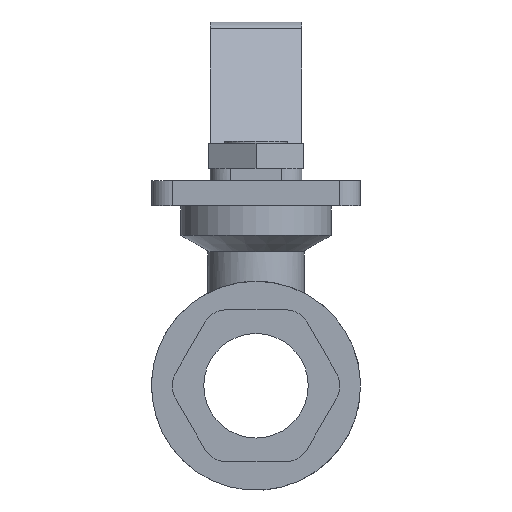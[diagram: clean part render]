
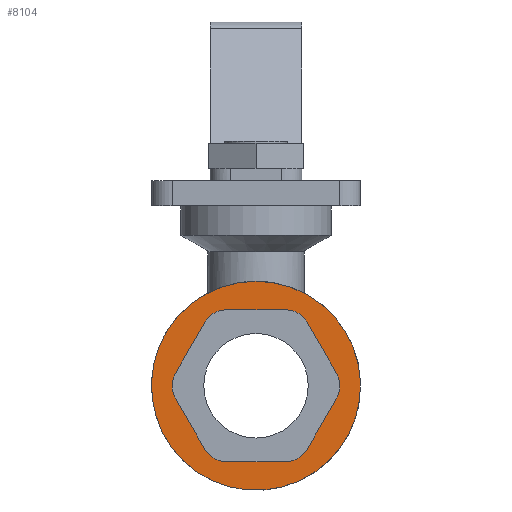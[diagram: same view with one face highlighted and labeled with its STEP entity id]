
A CAD part, front view. The second image highlights one B-rep face of the part: STEP entity #8104.
In plain terms, the highlighted planar face has unit normal (0, -1, 0).
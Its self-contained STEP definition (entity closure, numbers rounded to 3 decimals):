
#8104=ADVANCED_FACE('',(#14807,#14809),#14811,.T.);
#14807=FACE_BOUND('',#14808,.T.);
#14808=EDGE_LOOP('',(#20341,#20342));
#14809=FACE_BOUND('',#14810,.T.);
#14810=EDGE_LOOP('',(#20343,#20344,#20345,#20346,#20347,#20348,#20349,#20350,#20351,
#20352,#20353,#20354));
#14811=PLANE('',#14812);
#14812=AXIS2_PLACEMENT_3D('',#14813,#14814,#14815);
#14813=CARTESIAN_POINT('',(1521.074,2026.835,-6.002));
#14814=DIRECTION('',(0.,-1.,0.));
#14815=DIRECTION('',(1.,0.,0.));
#20341=ORIENTED_EDGE('',*,*,#23243,.F.);
#20342=ORIENTED_EDGE('',*,*,#23242,.F.);
#20343=ORIENTED_EDGE('',*,*,#23182,.T.);
#20344=ORIENTED_EDGE('',*,*,#23192,.T.);
#20345=ORIENTED_EDGE('',*,*,#23188,.T.);
#20346=ORIENTED_EDGE('',*,*,#23179,.T.);
#20347=ORIENTED_EDGE('',*,*,#23176,.T.);
#20348=ORIENTED_EDGE('',*,*,#23173,.T.);
#20349=ORIENTED_EDGE('',*,*,#23169,.T.);
#20350=ORIENTED_EDGE('',*,*,#23193,.T.);
#20351=ORIENTED_EDGE('',*,*,#23159,.T.);
#20352=ORIENTED_EDGE('',*,*,#23165,.T.);
#20353=ORIENTED_EDGE('',*,*,#23166,.T.);
#20354=ORIENTED_EDGE('',*,*,#23187,.T.);
#23159=EDGE_CURVE('',#27551,#27552,#27553,.T.);
#23165=EDGE_CURVE('',#27552,#27561,#27563,.T.);
#23166=EDGE_CURVE('',#27561,#27564,#27565,.T.);
#23169=EDGE_CURVE('',#27569,#27570,#27571,.T.);
#23173=EDGE_CURVE('',#27577,#27569,#27578,.T.);
#23176=EDGE_CURVE('',#27582,#27577,#27583,.T.);
#23179=EDGE_CURVE('',#27587,#27582,#27588,.T.);
#23182=EDGE_CURVE('',#27592,#27593,#27594,.T.);
#23187=EDGE_CURVE('',#27564,#27592,#27601,.T.);
#23188=EDGE_CURVE('',#27602,#27587,#27603,.T.);
#23192=EDGE_CURVE('',#27593,#27602,#27608,.T.);
#23193=EDGE_CURVE('',#27570,#27551,#27609,.T.);
#23242=EDGE_CURVE('',#27691,#27692,#27693,.T.);
#23243=EDGE_CURVE('',#27692,#27691,#27694,.T.);
#27551=VERTEX_POINT('',#37117);
#27552=VERTEX_POINT('',#37118);
#27553=CIRCLE('',#37119,6.);
#27561=VERTEX_POINT('',#37139);
#27563=LINE('',#37143,#37144);
#27564=VERTEX_POINT('',#37146);
#27565=CIRCLE('',#37147,6.);
#27569=VERTEX_POINT('',#37159);
#27570=VERTEX_POINT('',#37160);
#27571=CIRCLE('',#37161,6.);
#27577=VERTEX_POINT('',#37177);
#27578=LINE('',#37178,#37179);
#27582=VERTEX_POINT('',#37188);
#27583=CIRCLE('',#37189,6.);
#27587=VERTEX_POINT('',#37201);
#27588=LINE('',#37202,#37203);
#27592=VERTEX_POINT('',#37212);
#27593=VERTEX_POINT('',#37213);
#27594=CIRCLE('',#37214,6.);
#27601=LINE('',#37233,#37234);
#27602=VERTEX_POINT('',#37236);
#27603=CIRCLE('',#37237,6.);
#27608=LINE('',#37252,#37253);
#27609=LINE('',#37255,#37256);
#27691=VERTEX_POINT('',#37721);
#27692=VERTEX_POINT('',#37722);
#27693=CIRCLE('',#37723,25.);
#27694=CIRCLE('',#37727,25.);
#37117=CARTESIAN_POINT('',(1514.038,2026.835,-49.189));
#37118=CARTESIAN_POINT('',(1508.842,2026.835,-46.189));
#37119=AXIS2_PLACEMENT_3D('',#37120,#37121,#37122);
#37120=CARTESIAN_POINT('',(1514.038,2026.835,-43.189));
#37121=DIRECTION('',(0.,1.,0.));
#37122=DIRECTION('',(0.,0.,-1.));
#37139=CARTESIAN_POINT('',(1501.806,2026.835,-34.002));
#37143=CARTESIAN_POINT('',(1508.842,2026.835,-46.189));
#37144=VECTOR('',#37145,1.);
#37145=DIRECTION('',(-0.5,0.,0.866));
#37146=CARTESIAN_POINT('',(1501.806,2026.835,-28.002));
#37147=AXIS2_PLACEMENT_3D('',#37148,#37149,#37150);
#37148=CARTESIAN_POINT('',(1507.002,2026.835,-31.002));
#37149=DIRECTION('',(0.,1.,0.));
#37150=DIRECTION('',(-0.866,0.,-0.5));
#37159=CARTESIAN_POINT('',(1533.306,2026.835,-46.189));
#37160=CARTESIAN_POINT('',(1528.11,2026.835,-49.189));
#37161=AXIS2_PLACEMENT_3D('',#37162,#37163,#37164);
#37162=CARTESIAN_POINT('',(1528.11,2026.835,-43.189));
#37163=DIRECTION('',(0.,1.,0.));
#37164=DIRECTION('',(0.866,0.,-0.5));
#37177=CARTESIAN_POINT('',(1540.342,2026.835,-34.002));
#37178=CARTESIAN_POINT('',(1540.342,2026.835,-34.002));
#37179=VECTOR('',#37180,1.);
#37180=DIRECTION('',(-0.5,0.,-0.866));
#37188=CARTESIAN_POINT('',(1540.342,2026.835,-28.002));
#37189=AXIS2_PLACEMENT_3D('',#37190,#37191,#37192);
#37190=CARTESIAN_POINT('',(1535.146,2026.835,-31.002));
#37191=DIRECTION('',(0.,1.,0.));
#37192=DIRECTION('',(0.866,0.,0.5));
#37201=CARTESIAN_POINT('',(1533.306,2026.835,-15.816));
#37202=CARTESIAN_POINT('',(1533.306,2026.835,-15.816));
#37203=VECTOR('',#37204,1.);
#37204=DIRECTION('',(0.5,0.,-0.866));
#37212=CARTESIAN_POINT('',(1508.842,2026.835,-15.816));
#37213=CARTESIAN_POINT('',(1514.038,2026.835,-12.816));
#37214=AXIS2_PLACEMENT_3D('',#37215,#37216,#37217);
#37215=CARTESIAN_POINT('',(1514.038,2026.835,-18.816));
#37216=DIRECTION('',(0.,1.,0.));
#37217=DIRECTION('',(-0.866,0.,0.5));
#37233=CARTESIAN_POINT('',(1501.806,2026.835,-28.002));
#37234=VECTOR('',#37235,1.);
#37235=DIRECTION('',(0.5,0.,0.866));
#37236=CARTESIAN_POINT('',(1528.11,2026.835,-12.816));
#37237=AXIS2_PLACEMENT_3D('',#37238,#37239,#37240);
#37238=CARTESIAN_POINT('',(1528.11,2026.835,-18.816));
#37239=DIRECTION('',(0.,1.,0.));
#37240=DIRECTION('',(0.,0.,1.));
#37252=CARTESIAN_POINT('',(1514.038,2026.835,-12.816));
#37253=VECTOR('',#37254,1.);
#37254=DIRECTION('',(1.,0.,0.));
#37255=CARTESIAN_POINT('',(1528.11,2026.835,-49.189));
#37256=VECTOR('',#37257,1.);
#37257=DIRECTION('',(-1.,0.,0.));
#37721=CARTESIAN_POINT('',(1521.074,2026.835,-6.002));
#37722=CARTESIAN_POINT('',(1518.719,2026.835,-55.891));
#37723=AXIS2_PLACEMENT_3D('',#37724,#37725,#37726);
#37724=CARTESIAN_POINT('',(1521.074,2026.835,-31.002));
#37725=DIRECTION('',(0.,1.,0.));
#37726=DIRECTION('',(0.,0.,1.));
#37727=AXIS2_PLACEMENT_3D('',#37728,#37729,#37730);
#37728=CARTESIAN_POINT('',(1521.074,2026.835,-31.002));
#37729=DIRECTION('',(0.,1.,0.));
#37730=DIRECTION('',(-0.094,0.,-0.996));
